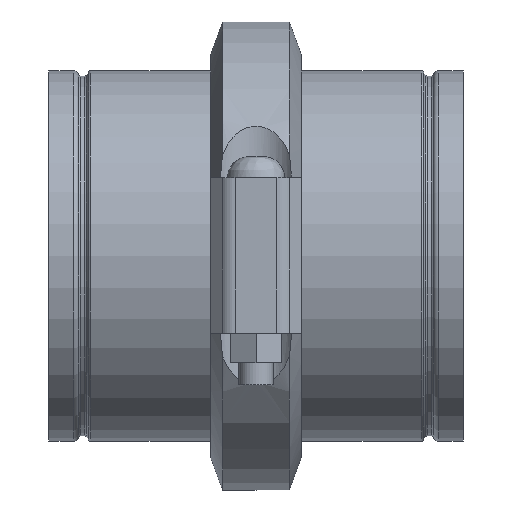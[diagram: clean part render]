
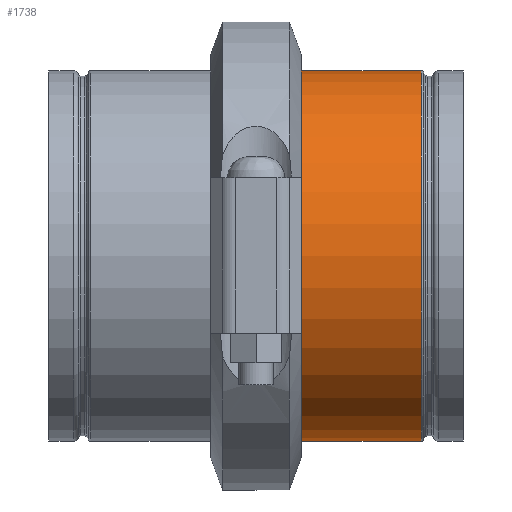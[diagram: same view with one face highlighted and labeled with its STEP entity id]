
A CAD part, top view. The second image highlights one B-rep face of the part: STEP entity #1738.
In plain terms, the highlighted cylindrical face has radius 136.525 mm (diameter 273.05 mm), a full revolution.
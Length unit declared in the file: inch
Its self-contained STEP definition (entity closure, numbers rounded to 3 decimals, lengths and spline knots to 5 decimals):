
#63=LINE('',#2821,#150);
#150=VECTOR('',#2272,5.375);
#237=CYLINDRICAL_SURFACE('',#1953,5.375);
#335=FACE_OUTER_BOUND('',#431,.T.);
#431=EDGE_LOOP('',(#1201,#1202,#1203,#1204,#1205,#1206,#1207,#1208));
#568=CIRCLE('',#1949,5.375);
#569=CIRCLE('',#1950,5.375);
#571=CIRCLE('',#1952,5.375);
#572=CIRCLE('',#1954,5.375);
#573=CIRCLE('',#1955,5.375);
#574=CIRCLE('',#1956,5.375);
#709=VERTEX_POINT('',#2808);
#710=VERTEX_POINT('',#2809);
#711=VERTEX_POINT('',#2811);
#712=VERTEX_POINT('',#2816);
#713=VERTEX_POINT('',#2817);
#714=VERTEX_POINT('',#2819);
#900=EDGE_CURVE('',#709,#710,#568,.T.);
#901=EDGE_CURVE('',#710,#711,#569,.T.);
#903=EDGE_CURVE('',#711,#709,#571,.T.);
#904=EDGE_CURVE('',#712,#713,#572,.T.);
#905=EDGE_CURVE('',#714,#712,#573,.T.);
#906=EDGE_CURVE('',#714,#710,#63,.T.);
#907=EDGE_CURVE('',#713,#714,#574,.T.);
#1201=ORIENTED_EDGE('',*,*,#904,.F.);
#1202=ORIENTED_EDGE('',*,*,#905,.F.);
#1203=ORIENTED_EDGE('',*,*,#906,.T.);
#1204=ORIENTED_EDGE('',*,*,#900,.F.);
#1205=ORIENTED_EDGE('',*,*,#903,.F.);
#1206=ORIENTED_EDGE('',*,*,#901,.F.);
#1207=ORIENTED_EDGE('',*,*,#906,.F.);
#1208=ORIENTED_EDGE('',*,*,#907,.F.);
#1738=ADVANCED_FACE('',(#335),#237,.T.);
#1949=AXIS2_PLACEMENT_3D('',#2810,#2258,#2259);
#1950=AXIS2_PLACEMENT_3D('',#2812,#2260,#2261);
#1952=AXIS2_PLACEMENT_3D('',#2814,#2264,#2265);
#1953=AXIS2_PLACEMENT_3D('',#2815,#2266,#2267);
#1954=AXIS2_PLACEMENT_3D('',#2818,#2268,#2269);
#1955=AXIS2_PLACEMENT_3D('',#2820,#2270,#2271);
#1956=AXIS2_PLACEMENT_3D('',#2822,#2273,#2274);
#2258=DIRECTION('center_axis',(-1.,0.,0.));
#2259=DIRECTION('ref_axis',(0.,-1.,0.));
#2260=DIRECTION('center_axis',(-1.,0.,0.));
#2261=DIRECTION('ref_axis',(0.,-1.,0.));
#2264=DIRECTION('center_axis',(-1.,0.,0.));
#2265=DIRECTION('ref_axis',(0.,-1.,0.));
#2266=DIRECTION('center_axis',(1.,0.,0.));
#2267=DIRECTION('ref_axis',(0.,1.,0.));
#2268=DIRECTION('center_axis',(1.,0.,0.));
#2269=DIRECTION('ref_axis',(0.,-1.,0.));
#2270=DIRECTION('center_axis',(1.,0.,0.));
#2271=DIRECTION('ref_axis',(0.,-1.,0.));
#2272=DIRECTION('',(-1.,0.,0.));
#2273=DIRECTION('center_axis',(1.,0.,0.));
#2274=DIRECTION('ref_axis',(0.,-1.,0.));
#2808=CARTESIAN_POINT('',(1.249,5.375,0.));
#2809=CARTESIAN_POINT('',(1.249,-5.375,0.));
#2810=CARTESIAN_POINT('Origin',(1.249,0.,0.));
#2811=CARTESIAN_POINT('',(1.249,0.,5.375));
#2812=CARTESIAN_POINT('Origin',(1.249,0.,0.));
#2814=CARTESIAN_POINT('Origin',(1.249,0.,0.));
#2815=CARTESIAN_POINT('Origin',(3.01773,0.,0.));
#2816=CARTESIAN_POINT('',(4.78523,5.375,0.));
#2817=CARTESIAN_POINT('',(4.78523,0.,5.375));
#2818=CARTESIAN_POINT('Origin',(4.78523,0.,0.));
#2819=CARTESIAN_POINT('',(4.78523,-5.375,0.));
#2820=CARTESIAN_POINT('Origin',(4.78523,0.,0.));
#2821=CARTESIAN_POINT('',(3.01773,-5.375,0.));
#2822=CARTESIAN_POINT('Origin',(4.78523,0.,0.));
